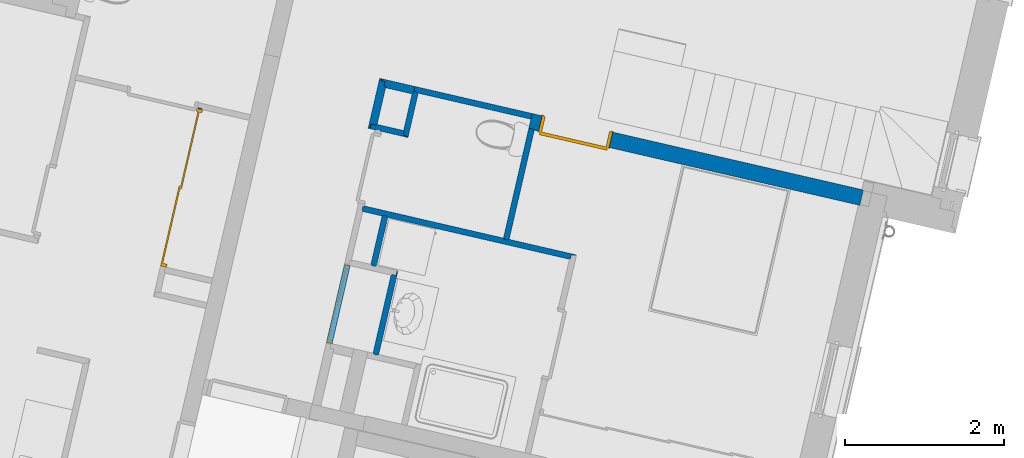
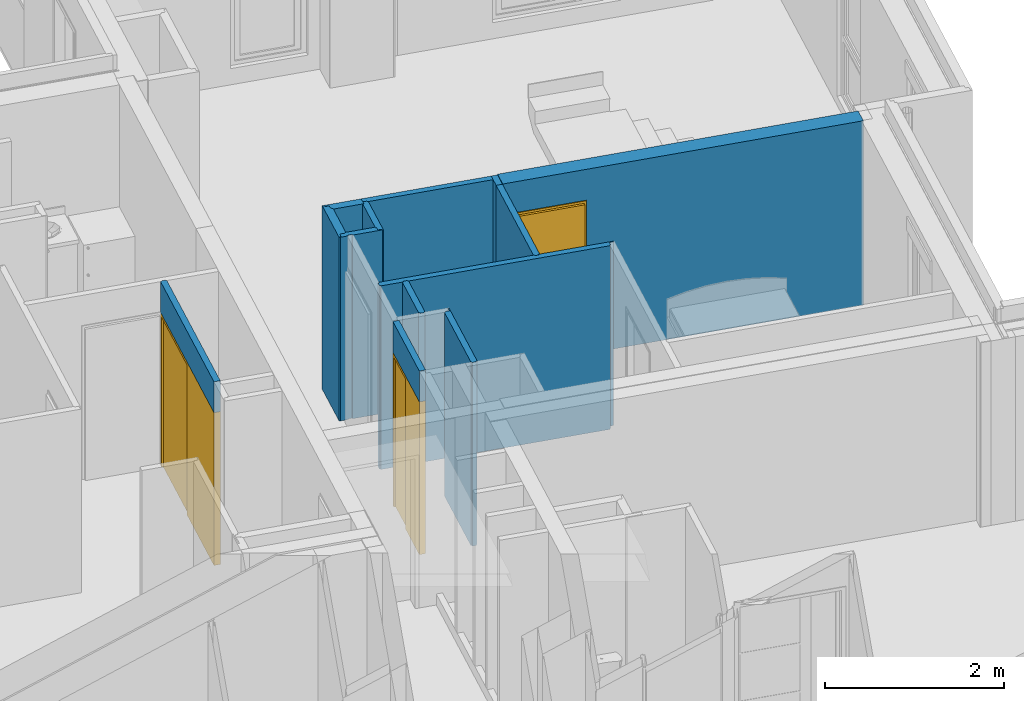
# One storey, part 31 of 62: 12 walls, 3 doors, 3 openings.
"""IFC2X3 building model written with IfcOpenShell, lengths in metres."""

from ifc_helpers import new_model, entity, si_unit, converted_unit, derived_unit, money_unit, direction, frame, origin_with_axes, place, context, subcontext, project, spatial, faceted_brep, material, material_list, type_object, element, fill, save


model = new_model("IFC2X3")

# Units and contexts
model_context = context("Model", 3, precision=1e-05, world=origin_with_axes(), true_north=direction((0.0, 1.0)))
body_context = subcontext(model_context, "Body", "Model", "MODEL_VIEW")
ifc_project = project(units=[si_unit("LENGTHUNIT", "METRE"), si_unit("AREAUNIT", "SQUARE_METRE"), si_unit("VOLUMEUNIT", "CUBIC_METRE"), converted_unit("PLANEANGLEUNIT", "DEGREE", entity("IfcPlaneAngleMeasure", 0.0174532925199), si_unit("PLANEANGLEUNIT", "RADIAN"), dimensions=[0, 0, 0, 0, 0, 0, 0]), si_unit("SOLIDANGLEUNIT", "STERADIAN"), money_unit("EUR"), converted_unit("TIMEUNIT", "Year", entity("IfcTimeMeasure", 31556926.0), si_unit("TIMEUNIT", "SECOND"), dimensions=[0, 0, 1, 0, 0, 0, 0]), si_unit("MASSUNIT", "GRAM", prefix="KILO"), si_unit("THERMODYNAMICTEMPERATUREUNIT", "DEGREE_CELSIUS"), si_unit("LUMINOUSINTENSITYUNIT", "LUMEN"), si_unit("ENERGYUNIT", "JOULE", prefix="MEGA"), derived_unit("THERMALCONDUCTANCEUNIT", [(si_unit("POWERUNIT", "WATT"), 1), (si_unit("LENGTHUNIT", "METRE"), -1), (si_unit("THERMODYNAMICTEMPERATUREUNIT", "KELVIN"), -1)]), derived_unit("SPECIFICHEATCAPACITYUNIT", [(si_unit("ENERGYUNIT", "JOULE"), 1), (si_unit("MASSUNIT", "GRAM", prefix="KILO"), -1), (si_unit("THERMODYNAMICTEMPERATUREUNIT", "KELVIN"), -1)]), derived_unit("MASSDENSITYUNIT", [(si_unit("MASSUNIT", "GRAM", prefix="KILO"), 1), (si_unit("VOLUMEUNIT", "CUBIC_METRE"), -1)])], contexts=[model_context])

# Site, building, storey
site_placement = place(None, origin_with_axes())
site = spatial("IfcSite", under=ifc_project, at=site_placement, Name="Site", CompositionType="ELEMENT")
building_placement = place(site_placement, origin_with_axes())
building = spatial("IfcBuilding", under=site, at=building_placement, Name="Bâtiment", CompositionType="ELEMENT")
storey_placement = place(building_placement, frame((0.0, 0.0, 8.16), z_axis=(0.0, 0.0, 1.0), x_axis=(1.0, 0.0, 0.0)))
storey = spatial("IfcBuildingStorey", under=building, at=storey_placement, Name="R+3", CompositionType="ELEMENT", Elevation=8.16)

# Wall
ifc_material_1 = material(Name="Finition int - Plaque de plâtre")
ifc_material_2 = material(Name="Isolation - Laine de roche")
ifc_material_list_1 = material_list([ifc_material_1, ifc_material_2, ifc_material_1])
wall_type_1 = type_object("IfcWallType", Name="3 - Cloison 72mm Placostil 74", PredefinedType="USERDEFINED")
wall_1_placement = place(storey_placement, frame((-5.01733986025, 6.01975366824, 0.0), z_axis=(0.0, 0.0, 1.0), x_axis=(-0.974387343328, 0.224876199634, 0.0)))
element("IfcWall", 1, at=wall_1_placement, inside=storey, type_object=wall_type_1, material=ifc_material_list_1, Name="Cloison Placostil 72/48", ObjectType="PARTITIONING", context=body_context, shape_type="Brep", body=[
    faceted_brep([(2.43426311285, -0.013, 2.5), (2.43426311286, 0.0, 2.5), (0.074, 0.0, 2.5), (0.0739999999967, -0.013, 2.5), (2.43426311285, -0.013, 0.0), (2.43426311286, 0.0, 0.0), (0.074, 0.0, 0.0), (0.0739999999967, -0.013, 0.0)], [[[0, 1, 2, 3]], [[1, 0, 4, 5]], [[1, 5, 6, 2]], [[7, 3, 2, 6]], [[4, 0, 3, 7]], [[5, 4, 7, 6]]]),
    faceted_brep([(2.74526311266, -0.013, 2.5), (2.74526311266, 0.0, 2.5), (2.48226311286, 0.0, 2.5), (2.48226311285, -0.013, 2.5), (2.74526311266, -0.013, 0.0), (2.74526311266, 0.0, 0.0), (2.48226311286, 0.0, 0.0), (2.48226311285, -0.013, 0.0)], [[[0, 1, 2, 3]], [[1, 0, 4, 5]], [[1, 5, 6, 2]], [[7, 3, 2, 6]], [[4, 0, 3, 7]], [[5, 4, 7, 6]]]),
    faceted_brep([(2.75826311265, -0.061, 2.5), (2.75826311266, -0.013, 2.5), (0.0609999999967, -0.013, 2.5), (0.0609999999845, -0.061, 2.5), (2.75826311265, -0.061, 0.0), (2.75826311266, -0.013, 0.0), (0.0609999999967, -0.013, 0.0), (0.0609999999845, -0.061, 0.0)], [[[0, 1, 2, 3]], [[1, 0, 4, 5]], [[1, 5, 6, 2]], [[7, 3, 2, 6]], [[4, 0, 3, 7]], [[5, 4, 7, 6]]]),
    faceted_brep([(0.882999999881, -0.074, 2.5), (0.882999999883, -0.061, 2.5), (0.0129999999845, -0.061, 2.5), (0.0129999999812, -0.074, 2.5), (0.882999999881, -0.074, 0.0), (0.882999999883, -0.061, 0.0), (0.0129999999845, -0.061, 0.0), (0.0129999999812, -0.074, 0.0)], [[[0, 1, 2, 3]], [[1, 0, 4, 5]], [[1, 5, 6, 2]], [[7, 3, 2, 6]], [[4, 0, 3, 7]], [[5, 4, 7, 6]]]),
    faceted_brep([(2.74526311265, -0.074, 2.5), (2.74526311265, -0.061, 2.5), (0.930999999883, -0.061, 2.5), (0.930999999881, -0.074, 2.5), (2.74526311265, -0.074, 0.0), (2.74526311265, -0.061, 0.0), (0.930999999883, -0.061, 0.0), (0.930999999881, -0.074, 0.0)], [[[0, 1, 2, 3]], [[1, 0, 4, 5]], [[1, 5, 6, 2]], [[7, 3, 2, 6]], [[4, 0, 3, 7]], [[5, 4, 7, 6]]]),
])

# Wall, opening, door
wall_2_placement = place(storey_placement, frame((-9.76130466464, 8.0083783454, 0.0), z_axis=(0.0, 0.0, 1.0), x_axis=(-0.224876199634, -0.974387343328, 0.0)))
wall_2 = element("IfcWall", 2, at=wall_2_placement, inside=storey, type_object=wall_type_1, material=ifc_material_list_1, Name="Cloison Placostil 72/48", ObjectType="PARTITIONING", context=body_context, shape_type="Brep", body=[
    faceted_brep([(2.10988528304, 0.074, 2.08), (0.074, 0.074, 2.08), (0.0740000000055, 0.074, 2.5), (2.10988528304, 0.074, 2.5), (0.074, 0.061, 2.08), (2.10988528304, 0.061, 2.08), (0.0740000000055, 0.061, 2.5), (2.10988528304, 0.061, 2.5)], [[[0, 1, 2, 3]], [[4, 1, 0, 5]], [[1, 4, 6, 2]], [[7, 3, 2, 6]], [[5, 0, 3, 7]], [[4, 5, 7, 6]]]),
    faceted_brep([(0.074, 0.061, 2.08), (0.074, 0.061, 0.0), (0.0610000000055, 0.061, 0.0), (0.0610000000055, 0.061, 2.5), (2.10988528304, 0.061, 2.5), (2.10988528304, 0.061, 2.08), (0.074, 0.013, 2.08), (0.074, 0.013, 0.0), (0.0610000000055, 0.013, 0.0), (0.0610000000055, 0.013, 2.5), (2.10988528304, 0.013, 2.5), (2.10988528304, 0.013, 2.08)], [[[0, 1, 2, 3, 4, 5]], [[1, 0, 6, 7]], [[1, 7, 8, 2]], [[2, 8, 9, 3]], [[10, 4, 3, 9]], [[11, 5, 4, 10]], [[0, 5, 11, 6]], [[6, 11, 10, 9, 8, 7]]]),
    faceted_brep([(2.10988528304, 0.013, 2.08), (0.074, 0.013, 2.08), (0.0740000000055, 0.013, 2.5), (2.10988528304, 0.013, 2.5), (0.074, 0.0, 2.08), (2.10988528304, 0.0, 2.08), (0.0740000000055, 0.0, 2.5), (2.10988528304, 0.0, 2.5)], [[[0, 1, 2, 3]], [[4, 1, 0, 5]], [[1, 4, 6, 2]], [[7, 3, 2, 6]], [[5, 0, 3, 7]], [[4, 5, 7, 6]]]),
])
opening_1_placement = place(wall_2_placement, frame((1.09194264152, 0.0, 0.0), z_axis=(0.0, 0.0, 1.0), x_axis=(1.0, 0.0, 0.0)))
opening_1 = element("IfcOpeningElement", 3, at=opening_1_placement, cuts=wall_2, Name="Por-002", context=body_context, shape_type="Brep", body=[
    faceted_brep([(1.01794264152, -0.074, 0.0), (-1.01794264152, -0.074, 0.0), (-1.01794264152, 0.074, 0.0), (1.01794264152, 0.074, 0.0), (1.01794264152, -0.074, 2.08), (-1.01794264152, -0.074, 2.08), (-1.01794264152, 0.074, 2.08), (1.01794264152, 0.074, 2.08)], [[[0, 1, 2, 3]], [[0, 4, 5, 1]], [[1, 5, 6, 2]], [[3, 2, 6, 7]], [[4, 0, 3, 7]], [[5, 4, 7, 6]]]),
])
door_style_1 = type_object("IfcDoorStyle", Name="Porte int générique 2019", ConstructionType="NOTDEFINED", OperationType="USERDEFINED", ParameterTakesPrecedence=False, Sizeable=False)
door_1_placement = place(opening_1_placement, frame((0.977942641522, 0.0, 0.0), z_axis=(0.0, 0.0, 1.0), x_axis=(-1.0, 0.0, 0.0)))
door_1 = element("IfcDoor", 4, at=door_1_placement, inside=storey, type_object=door_style_1, Name="Por-002", ObjectType="DOOR", OverallHeight=2.04, OverallWidth=1.95589, context=body_context, shape_type="Brep", body=[
    faceted_brep([(-0.04, 0.0, 0.0), (-0.04, 0.0, 2.08), (1.99588528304, 0.0, 2.08), (1.99588528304, 0.0, 0.0), (1.95588528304, 0.0, 0.0), (1.95588528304, 0.0, 2.04), (0.0, 0.0, 2.04), (0.0, 0.0, 0.0), (-0.04, -0.074, 0.0), (-0.04, -0.074, 2.08), (1.99588528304, -0.074, 2.08), (1.99588528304, -0.074, 0.0), (1.95588528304, -0.074, 0.0), (1.95588528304, -0.074, 2.04), (0.0, -0.074, 2.04), (0.0, -0.074, 0.0)], [[[0, 1, 2, 3, 4, 5, 6, 7]], [[8, 9, 1, 0]], [[9, 10, 2, 1]], [[10, 11, 3, 2]], [[3, 11, 12, 4]], [[5, 4, 12, 13]], [[6, 5, 13, 14]], [[7, 6, 14, 15]], [[0, 7, 15, 8]], [[15, 14, 13, 12, 11, 10, 9, 8]]]),
    faceted_brep([(0.0, 0.0, 0.0), (0.992942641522, 0.0, 0.0), (0.992942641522, -0.02, 0.0), (0.0, -0.02, 0.0), (0.0, 0.0, 2.04), (0.992942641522, 0.0, 2.04), (0.992942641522, -0.02, 2.04), (0.0, -0.02, 2.04)], [[[0, 1, 2, 3]], [[0, 4, 5, 1]], [[1, 5, 6, 2]], [[3, 2, 6, 7]], [[4, 0, 3, 7]], [[5, 4, 7, 6]]]),
    faceted_brep([(0.962942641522, -0.02, 0.0), (1.95588528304, -0.02, 0.0), (1.95588528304, -0.04, 0.0), (0.962942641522, -0.04, 0.0), (0.962942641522, -0.02, 2.04), (1.95588528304, -0.02, 2.04), (1.95588528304, -0.04, 2.04), (0.962942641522, -0.04, 2.04)], [[[0, 1, 2, 3]], [[0, 4, 5, 1]], [[1, 5, 6, 2]], [[3, 2, 6, 7]], [[4, 0, 3, 7]], [[5, 4, 7, 6]]]),
])
fill(opening_1, door_1)

# Walls
wall_3_placement = place(storey_placement, frame((-5.52941257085, 7.66974078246, 0.0), z_axis=(0.0, 0.0, 1.0), x_axis=(-0.224876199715, -0.97438734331, 0.0)))
element("IfcWall", 5, at=wall_3_placement, inside=storey, type_object=wall_type_1, material=ifc_material_list_1, Name="Cloison Placostil 72/48", ObjectType="PARTITIONING", context=body_context, shape_type="Brep", body=[
    faceted_brep([(1.41857359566, -0.013, 2.5), (1.41857359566, 0.0, 2.5), (-3.59074547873e-10, 0.0, 2.5), (-3.68804542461e-10, -0.013, 2.5), (1.41857359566, -0.013, 0.0), (1.41857359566, 0.0, 0.0), (-3.59074547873e-10, 0.0, 0.0), (-3.68804542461e-10, -0.013, 0.0)], [[[0, 1, 2, 3]], [[1, 0, 4, 5]], [[1, 5, 6, 2]], [[7, 3, 2, 6]], [[4, 0, 3, 7]], [[5, 4, 7, 6]]]),
    faceted_brep([(1.43157359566, -0.061, 2.5), (1.43157359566, -0.013, 2.5), (-3.68804542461e-10, -0.013, 2.5), (-4.04734912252e-10, -0.061, 2.5), (1.43157359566, -0.061, 0.0), (1.43157359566, -0.013, 0.0), (-3.68804542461e-10, -0.013, 0.0), (-4.04734912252e-10, -0.061, 0.0)], [[[0, 1, 2, 3]], [[1, 0, 4, 5]], [[1, 5, 6, 2]], [[7, 3, 2, 6]], [[4, 0, 3, 7]], [[5, 4, 7, 6]]]),
    faceted_brep([(1.41857359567, -0.074, 2.5), (1.41857359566, -0.061, 2.5), (-4.04734912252e-10, -0.061, 2.5), (-4.14464018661e-10, -0.074, 2.5), (1.41857359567, -0.074, 0.0), (1.41857359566, -0.061, 0.0), (-4.04734912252e-10, -0.061, 0.0), (-4.14464018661e-10, -0.074, 0.0)], [[[0, 1, 2, 3]], [[1, 0, 4, 5]], [[1, 5, 6, 2]], [[7, 3, 2, 6]], [[4, 0, 3, 7]], [[5, 4, 7, 6]]]),
])
wall_4_placement = place(storey_placement, frame((-7.37658799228, 6.56423811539, 0.0), z_axis=(0.0, 0.0, 1.0), x_axis=(-0.224876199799, -0.97438734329, 0.0)))
element("IfcWall", 6, at=wall_4_placement, inside=storey, type_object=wall_type_1, material=ifc_material_list_1, Name="Cloison Placostil 72/48", ObjectType="PARTITIONING", context=body_context, shape_type="Brep", body=[
    faceted_brep([(0.625213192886, -0.013, 2.5), (0.625213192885, 0.0, 2.5), (0.0, 0.0, 2.5), (0.0, -0.013, 2.5), (0.625213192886, -0.013, 0.0), (0.625213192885, 0.0, 0.0), (0.0, 0.0, 0.0), (0.0, -0.013, 0.0)], [[[0, 1, 2, 3]], [[1, 0, 4, 5]], [[1, 5, 6, 2]], [[7, 3, 2, 6]], [[4, 0, 3, 7]], [[5, 4, 7, 6]]]),
    faceted_brep([(0.63821319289, -0.061, 2.5), (0.638213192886, -0.013, 2.5), (-0.0129999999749, -0.013, 2.5), (-0.0129999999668, -0.061, 2.5), (0.63821319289, -0.061, 0.0), (0.638213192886, -0.013, 0.0), (-0.0129999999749, -0.013, 0.0), (-0.0129999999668, -0.061, 0.0)], [[[0, 1, 2, 3]], [[1, 0, 4, 5]], [[1, 5, 6, 2]], [[7, 3, 2, 6]], [[4, 0, 3, 7]], [[5, 4, 7, 6]]]),
    faceted_brep([(0.625213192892, -0.074, 2.5), (0.62521319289, -0.061, 2.5), (0.0, -0.061, 2.5), (0.0, -0.074, 2.5), (0.625213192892, -0.074, 0.0), (0.62521319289, -0.061, 0.0), (0.0, -0.061, 0.0), (0.0, -0.074, 0.0)], [[[0, 1, 2, 3]], [[1, 0, 4, 5]], [[1, 5, 6, 2]], [[7, 3, 2, 6]], [[4, 0, 3, 7]], [[5, 4, 7, 6]]]),
])
wall_5_placement = place(storey_placement, frame((-5.55879075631, 7.87151521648, 0.0), z_axis=(0.0, 0.0, 1.0), x_axis=(-0.97438734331, 0.224876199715, 0.0)))
element("IfcWall", 7, at=wall_5_placement, inside=storey, type_object=wall_type_1, material=ifc_material_list_1, Name="Cloison Placostil 72/48", ObjectType="PARTITIONING", context=body_context, shape_type="Brep", body=[
    faceted_brep([(1.46765362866, 0.074, 0.0), (1.46765362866, 0.061, 0.0), (0.0, 0.061, 0.0), (0.0, 0.074, 0.0), (1.46765362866, 0.074, 2.5), (1.46765362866, 0.061, 2.5), (0.0, 0.061, 2.5), (0.0, 0.074, 2.5)], [[[0, 1, 2, 3]], [[1, 0, 4, 5]], [[1, 5, 6, 2]], [[7, 3, 2, 6]], [[4, 0, 3, 7]], [[5, 4, 7, 6]]]),
    faceted_brep([(0.0, 0.061, 0.0), (1.51565362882, 0.061, 0.0), (1.51565362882, 0.013, 0.0), (0.0, 0.013, 0.0), (0.0, 0.061, 2.5), (1.51565362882, 0.061, 2.5), (1.51565362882, 0.013, 2.5), (0.0, 0.013, 2.5)], [[[0, 1, 2, 3]], [[4, 5, 1, 0]], [[2, 1, 5, 6]], [[3, 2, 6, 7]], [[4, 0, 3, 7]], [[7, 6, 5, 4]]]),
    faceted_brep([(0.0, 0.013, 0.0), (1.51565362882, 0.013, 0.0), (1.51565362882, 0.0, 0.0), (0.0, 0.0, 0.0), (0.0, 0.013, 2.5), (1.51565362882, 0.013, 2.5), (1.51565362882, 0.0, 2.5), (0.0, 0.0, 2.5)], [[[0, 1, 2, 3]], [[4, 5, 1, 0]], [[2, 1, 5, 6]], [[3, 2, 6, 7]], [[4, 0, 3, 7]], [[7, 6, 5, 4]]]),
])
wall_6_placement = place(storey_placement, frame((-7.24702189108, 5.89268841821, 0.0), z_axis=(0.0, 0.0, 1.0), x_axis=(-0.224876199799, -0.97438734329, 0.0)))
element("IfcWall", 8, at=wall_6_placement, inside=storey, type_object=wall_type_1, material=ifc_material_list_1, Name="Cloison Placostil 72/48", ObjectType="PARTITIONING", context=body_context, shape_type="Brep", body=[
    faceted_brep([(1.08273752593, -0.013, 2.5), (1.08273752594, 0.0, 2.5), (0.013, 0.0, 2.5), (0.0130000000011, -0.013, 2.5), (1.08273752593, -0.013, 0.0), (1.08273752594, 0.0, 0.0), (0.013, 0.0, 0.0), (0.0130000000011, -0.013, 0.0)], [[[0, 1, 2, 3]], [[1, 0, 4, 5]], [[1, 5, 6, 2]], [[7, 3, 2, 6]], [[4, 0, 3, 7]], [[5, 4, 7, 6]]]),
    faceted_brep([(1.0957375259, -0.061, 2.5), (1.09573752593, -0.013, 2.5), (0.0610000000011, -0.013, 2.5), (0.0610000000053, -0.061, 2.5), (1.0957375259, -0.061, 0.0), (1.09573752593, -0.013, 0.0), (0.0610000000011, -0.013, 0.0), (0.0610000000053, -0.061, 0.0)], [[[0, 1, 2, 3]], [[1, 0, 4, 5]], [[1, 5, 6, 2]], [[7, 3, 2, 6]], [[4, 0, 3, 7]], [[5, 4, 7, 6]]]),
    faceted_brep([(1.08273752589, -0.074, 2.5), (1.0827375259, -0.061, 2.5), (0.0740000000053, -0.061, 2.5), (0.0740000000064, -0.074, 2.5), (1.08273752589, -0.074, 0.0), (1.0827375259, -0.061, 0.0), (0.0740000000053, -0.061, 0.0), (0.0740000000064, -0.074, 0.0)], [[[0, 1, 2, 3]], [[1, 0, 4, 5]], [[1, 5, 6, 2]], [[7, 3, 2, 6]], [[4, 0, 3, 7]], [[5, 4, 7, 6]]]),
])

# Wall, opening, door
wall_7_placement = place(storey_placement, frame((-7.84952589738, 5.95579351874, 0.0), z_axis=(0.0, 0.0, 1.0), x_axis=(-0.224876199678, -0.974387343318, 0.0)))
wall_7 = element("IfcWall", 9, at=wall_7_placement, inside=storey, type_object=wall_type_1, material=ifc_material_list_1, Name="Cloison Placostil 72/48", ObjectType="PARTITIONING", context=body_context, shape_type="Brep", body=[
    faceted_brep([(1.00873752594, 0.0, 2.08), (0.0, 0.0, 2.08), (0.0, 0.0, 2.5), (1.00873752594, 0.0, 2.5), (0.0, -0.013, 2.08), (1.00873752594, -0.013, 2.08), (0.0, -0.013, 2.5), (1.00873752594, -0.013, 2.5)], [[[0, 1, 2, 3]], [[4, 1, 0, 5]], [[1, 4, 6, 2]], [[7, 3, 2, 6]], [[5, 0, 3, 7]], [[4, 5, 7, 6]]]),
    faceted_brep([(1.00873752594, -0.013, 2.08), (0.0, -0.013, 2.08), (0.0, -0.013, 2.5), (1.00873752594, -0.013, 2.5), (0.0, -0.061, 2.08), (1.00873752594, -0.061, 2.08), (0.0, -0.061, 2.5), (1.00873752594, -0.061, 2.5)], [[[0, 1, 2, 3]], [[4, 1, 0, 5]], [[1, 4, 6, 2]], [[7, 3, 2, 6]], [[5, 0, 3, 7]], [[4, 5, 7, 6]]]),
    faceted_brep([(1.00873752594, -0.061, 2.08), (0.0, -0.061, 2.08), (0.0, -0.061, 2.5), (1.00873752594, -0.061, 2.5), (0.0, -0.074, 2.08), (1.00873752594, -0.074, 2.08), (0.0, -0.074, 2.5), (1.00873752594, -0.074, 2.5)], [[[0, 1, 2, 3]], [[4, 1, 0, 5]], [[1, 4, 6, 2]], [[7, 3, 2, 6]], [[5, 0, 3, 7]], [[4, 5, 7, 6]]]),
])
opening_2_placement = place(wall_7_placement, frame((0.504368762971, 0.0, 0.0), z_axis=(0.0, 0.0, 1.0), x_axis=(1.0, 0.0, 0.0)))
opening_2 = element("IfcOpeningElement", 10, at=opening_2_placement, cuts=wall_7, Name="Por-002", context=body_context, shape_type="Brep", body=[
    faceted_brep([(0.504368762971, -0.074, 0.0), (-0.504368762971, -0.074, 0.0), (-0.504368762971, 0.074, 0.0), (0.504368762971, 0.074, 0.0), (0.504368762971, -0.074, 2.08), (-0.504368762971, -0.074, 2.08), (-0.504368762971, 0.074, 2.08), (0.504368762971, 0.074, 2.08)], [[[0, 1, 2, 3]], [[0, 4, 5, 1]], [[1, 5, 6, 2]], [[3, 2, 6, 7]], [[4, 0, 3, 7]], [[5, 4, 7, 6]]]),
])
door_2_placement = place(opening_2_placement, frame((0.464368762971, 0.0, 0.0), z_axis=(0.0, 0.0, 1.0), x_axis=(-1.0, 0.0, 0.0)))
door_2 = element("IfcDoor", 11, at=door_2_placement, inside=storey, type_object=door_style_1, Name="Por-002", ObjectType="DOOR", OverallHeight=2.04, OverallWidth=0.928738, context=body_context, shape_type="Brep", body=[
    faceted_brep([(-0.04, 0.074, 0.0), (-0.04, 0.074, 2.08), (0.968737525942, 0.074, 2.08), (0.968737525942, 0.074, 0.0), (0.928737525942, 0.074, 0.0), (0.928737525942, 0.074, 2.04), (0.0, 0.074, 2.04), (0.0, 0.074, 0.0), (-0.04, 0.0, 0.0), (-0.04, 0.0, 2.08), (0.968737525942, 0.0, 2.08), (0.968737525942, 0.0, 0.0), (0.928737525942, 0.0, 0.0), (0.928737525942, 0.0, 2.04), (0.0, 0.0, 2.04), (0.0, 0.0, 0.0)], [[[0, 1, 2, 3, 4, 5, 6, 7]], [[8, 9, 1, 0]], [[9, 10, 2, 1]], [[10, 11, 3, 2]], [[3, 11, 12, 4]], [[5, 4, 12, 13]], [[6, 5, 13, 14]], [[7, 6, 14, 15]], [[0, 7, 15, 8]], [[15, 14, 13, 12, 11, 10, 9, 8]]]),
    faceted_brep([(0.0, 0.074, 0.0), (0.479368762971, 0.074, 0.0), (0.479368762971, 0.054, 0.0), (0.0, 0.054, 0.0), (0.0, 0.074, 2.04), (0.479368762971, 0.074, 2.04), (0.479368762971, 0.054, 2.04), (0.0, 0.054, 2.04)], [[[0, 1, 2, 3]], [[0, 4, 5, 1]], [[1, 5, 6, 2]], [[3, 2, 6, 7]], [[4, 0, 3, 7]], [[5, 4, 7, 6]]]),
    faceted_brep([(0.449368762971, 0.054, 0.0), (0.928737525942, 0.054, 0.0), (0.928737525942, 0.034, 0.0), (0.449368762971, 0.034, 0.0), (0.449368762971, 0.054, 2.04), (0.928737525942, 0.054, 2.04), (0.928737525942, 0.034, 2.04), (0.449368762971, 0.034, 2.04)], [[[0, 1, 2, 3]], [[0, 4, 5, 1]], [[1, 5, 6, 2]], [[3, 2, 6, 7]], [[4, 0, 3, 7]], [[5, 4, 7, 6]]]),
])
fill(opening_2, door_2)

ifc_material_3 = material(Name="Finition int - Enduit plâtre")
ifc_material_4 = material(Name="Béton")
ifc_material_list_2 = material_list([ifc_material_3, ifc_material_4, ifc_material_3])
wall_type_2 = type_object("IfcWallType", Name="2 - Murs Béton 18 + Enduit 2 Faces 200", PredefinedType="USERDEFINED")
wall_8_placement = place(storey_placement, frame((-5.52941257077, 7.66974078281, 0.0), z_axis=(0.0, 0.0, 1.0), x_axis=(0.974387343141, -0.224876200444, 0.0)))
wall_8 = element("IfcWall", 12, at=wall_8_placement, inside=storey, type_object=wall_type_2, material=ifc_material_list_2, Name="M_Ext-008", ObjectType="SOLIDWALL", context=body_context, shape_type="Brep", body=[
    faceted_brep([(0.0553181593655, 0.19, 2.08), (0.0553181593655, 0.19, 0.0), (-0.0740000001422, 0.19, 0.0), (-0.0740000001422, 0.19, 2.5), (0.0, 0.19, 2.5), (0.0, 0.19, 2.51), (4.2049282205, 0.19, 2.51), (4.2049282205, 0.19, 0.0), (0.965318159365, 0.19, 0.0), (0.965318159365, 0.19, 2.08), (0.0553181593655, 0.18, 2.08), (0.0553181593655, 0.18, 0.0), (-0.0740000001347, 0.18, 0.0), (-0.0740000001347, 0.18, 2.5), (0.0, 0.18, 2.5), (0.0, 0.18, 2.51), (4.2049282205, 0.18, 2.51), (4.2049282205, 0.18, 0.0), (0.965318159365, 0.18, 0.0), (0.965318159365, 0.18, 2.08)], [[[0, 1, 2, 3, 4, 5, 6, 7, 8, 9]], [[1, 0, 10, 11]], [[1, 11, 12, 2]], [[13, 3, 2, 12]], [[3, 13, 14, 4]], [[15, 5, 4, 14]], [[5, 15, 16, 6]], [[17, 7, 6, 16]], [[18, 8, 7, 17]], [[9, 8, 18, 19]], [[0, 9, 19, 10]], [[19, 18, 17, 16, 15, 14, 13, 12, 11, 10]]]),
    faceted_brep([(0.0553181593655, 0.18, 2.08), (0.0553181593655, 0.18, 0.0), (-0.0740000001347, 0.18, 0.0), (-0.0740000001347, 0.18, 2.5), (0.0, 0.18, 2.5), (0.0, 0.18, 2.51), (4.2049282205, 0.18, 2.51), (4.2049282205, 0.18, 0.0), (0.965318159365, 0.18, 0.0), (0.965318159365, 0.18, 2.08), (0.0553181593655, 0.0, 2.08), (0.0553181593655, 0.0, 0.0), (-0.074, 0.0, 0.0), (-0.074, 0.0, 2.5), (0.0, 0.0, 2.5), (0.0, 0.0, 2.51), (4.2049282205, 0.0, 2.51), (4.2049282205, 0.0, 0.0), (0.965318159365, 0.0, 0.0), (0.965318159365, 0.0, 2.08)], [[[0, 1, 2, 3, 4, 5, 6, 7, 8, 9]], [[1, 0, 10, 11]], [[1, 11, 12, 2]], [[13, 3, 2, 12]], [[3, 13, 14, 4]], [[15, 5, 4, 14]], [[5, 15, 16, 6]], [[17, 7, 6, 16]], [[18, 8, 7, 17]], [[9, 8, 18, 19]], [[0, 9, 19, 10]], [[19, 18, 17, 16, 15, 14, 13, 12, 11, 10]]]),
    faceted_brep([(0.0553181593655, 0.0, 2.08), (0.0553181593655, 0.0, 0.0), (0.0, 0.0, 0.0), (0.0, 0.0, 2.5), (0.0, 0.0, 2.51), (4.2049282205, 0.0, 2.51), (4.2049282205, 0.0, 0.0), (0.965318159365, 0.0, 0.0), (0.965318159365, 0.0, 2.08), (0.0553181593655, -0.01, 2.08), (0.0553181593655, -0.01, 0.0), (0.0, -0.01, 0.0), (0.0, -0.01, 2.5), (0.0, -0.01, 2.51), (4.2049282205, -0.01, 2.51), (4.2049282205, -0.01, 0.0), (0.965318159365, -0.01, 0.0), (0.965318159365, -0.01, 2.08)], [[[0, 1, 2, 3, 4, 5, 6, 7, 8]], [[1, 0, 9, 10]], [[1, 10, 11, 2]], [[12, 3, 2, 11]], [[3, 12, 13, 4]], [[5, 4, 13, 14]], [[14, 15, 6, 5]], [[16, 7, 6, 15]], [[8, 7, 16, 17]], [[0, 8, 17, 9]], [[17, 16, 15, 14, 13, 12, 11, 10, 9]]]),
])
opening_3_placement = place(wall_8_placement, frame((0.510318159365, 0.0, 0.0), z_axis=(0.0, 0.0, 1.0), x_axis=(1.0, 0.0, 0.0)))
opening_3 = element("IfcOpeningElement", 13, at=opening_3_placement, cuts=wall_8, Name="Porte 83x204 bois alvéolaire", context=body_context, shape_type="Brep", body=[
    faceted_brep([(-0.455, 0.2, 0.0), (0.455, 0.2, 0.0), (0.455, -0.2, 0.0), (-0.455, -0.2, 0.0), (-0.455, 0.2, 2.08), (0.455, 0.2, 2.08), (0.455, -0.2, 2.08), (-0.455, -0.2, 2.08)], [[[0, 1, 2, 3]], [[0, 4, 5, 1]], [[1, 5, 6, 2]], [[3, 2, 6, 7]], [[4, 0, 3, 7]], [[5, 4, 7, 6]]]),
])
door_style_2 = type_object("IfcDoorStyle", Name="Porte int générique 2019", ConstructionType="NOTDEFINED", OperationType="SINGLE_SWING_RIGHT", ParameterTakesPrecedence=False, Sizeable=False)
door_3_placement = place(opening_3_placement, frame((0.415, 0.0, 0.0), z_axis=(0.0, 0.0, 1.0), x_axis=(-1.0, 0.0, 0.0)))
door_3 = element("IfcDoor", 14, at=door_3_placement, inside=storey, type_object=door_style_2, Name="Porte 83x204 bois alvéolaire", ObjectType="DOOR", OverallHeight=2.04, OverallWidth=0.83, context=body_context, shape_type="Brep", body=[
    faceted_brep([(0.87, 0.01, 0.0), (0.83, 0.01, 0.0), (0.83, 0.01, 2.04), (0.0, 0.01, 2.04), (0.0, 0.01, 0.0), (-0.04, 0.01, 0.0), (-0.04, 0.01, 2.08), (0.87, 0.01, 2.08), (0.87, -0.19, 0.0), (0.83, -0.19, 0.0), (0.83, -0.19, 2.04), (0.0, -0.19, 2.04), (0.0, -0.19, 0.0), (-0.04, -0.19, 0.0), (-0.04, -0.19, 2.08), (0.87, -0.19, 2.08)], [[[0, 1, 2, 3, 4, 5, 6, 7]], [[0, 8, 9, 1]], [[1, 9, 10, 2]], [[2, 10, 11, 3]], [[3, 11, 12, 4]], [[5, 4, 12, 13]], [[14, 6, 5, 13]], [[15, 7, 6, 14]], [[8, 0, 7, 15]], [[9, 8, 15, 14, 13, 12, 11, 10]]]),
    faceted_brep([(0.88, 0.01, 0.0), (0.88, 0.02, 0.0), (0.88, 0.02, 2.09), (0.88, 0.01, 2.09), (0.85, 0.01, 0.0), (0.85, 0.02, 0.0), (0.85, 0.02, 2.06), (-0.02, 0.02, 2.06), (-0.02, 0.02, 0.0), (-0.05, 0.02, 0.0), (-0.05, 0.02, 2.09), (-0.05, 0.01, 2.09), (-0.05, 0.01, 0.0), (-0.02, 0.01, 0.0), (-0.02, 0.01, 2.06), (0.85, 0.01, 2.06)], [[[0, 1, 2, 3]], [[0, 4, 5, 1]], [[1, 5, 6, 7, 8, 9, 10, 2]], [[3, 2, 10, 11]], [[4, 0, 3, 11, 12, 13, 14, 15]], [[5, 4, 15, 6]], [[6, 15, 14, 7]], [[7, 14, 13, 8]], [[12, 9, 8, 13]], [[11, 10, 9, 12]]]),
    faceted_brep([(0.88, -0.2, 0.0), (0.88, -0.19, 0.0), (0.88, -0.19, 2.09), (0.88, -0.2, 2.09), (0.85, -0.2, 0.0), (0.85, -0.19, 0.0), (0.85, -0.19, 2.06), (-0.02, -0.19, 2.06), (-0.02, -0.19, 0.0), (-0.05, -0.19, 0.0), (-0.05, -0.19, 2.09), (-0.05, -0.2, 2.09), (-0.05, -0.2, 0.0), (-0.02, -0.2, 0.0), (-0.02, -0.2, 2.06), (0.85, -0.2, 2.06)], [[[0, 1, 2, 3]], [[0, 4, 5, 1]], [[1, 5, 6, 7, 8, 9, 10, 2]], [[3, 2, 10, 11]], [[4, 0, 3, 11, 12, 13, 14, 15]], [[5, 4, 15, 6]], [[6, 15, 14, 7]], [[7, 14, 13, 8]], [[12, 9, 8, 13]], [[11, 10, 9, 12]]]),
    faceted_brep([(0.85, 0.05, 0.0), (0.85, 0.01, 0.0), (-0.02, 0.01, 0.0), (-0.02, 0.05, 0.0), (0.85, 0.05, 2.06), (0.85, 0.01, 2.06), (-0.02, 0.01, 2.06), (-0.02, 0.05, 2.06)], [[[0, 1, 2, 3]], [[4, 5, 1, 0]], [[1, 5, 6, 2]], [[3, 2, 6, 7]], [[0, 3, 7, 4]], [[7, 6, 5, 4]]]),
])
fill(opening_3, door_3)

# Walls
wall_type_3 = type_object("IfcWallType", Name="3 - Cloison Gaine Technique 72mm 74", PredefinedType="USERDEFINED")
wall_9_placement = place(storey_placement, frame((-7.12158585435, 7.56861906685, 0.0), z_axis=(0.0, 0.0, 1.0), x_axis=(-0.97438734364, 0.224876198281, 0.0)))
element("IfcWall", 15, at=wall_9_placement, inside=storey, type_object=wall_type_3, material=ifc_material_list_1, Name="Cloison Placostil 72/48", ObjectType="PARTITIONING", context=body_context, shape_type="Brep", body=[
    faceted_brep([(0.359609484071, -0.013, 2.5), (0.35960948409, 0.0, 2.5), (0.013, 0.0, 2.5), (0.0129999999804, -0.013, 2.5), (0.359609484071, -0.013, 0.0), (0.35960948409, 0.0, 0.0), (0.013, 0.0, 0.0), (0.0129999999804, -0.013, 0.0)], [[[0, 1, 2, 3]], [[1, 0, 4, 5]], [[1, 5, 6, 2]], [[7, 3, 2, 6]], [[4, 0, 3, 7]], [[5, 4, 7, 6]]]),
    faceted_brep([(0.502609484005, -0.013, 2.5), (0.502609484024, 0.0, 2.5), (0.40760948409, 0.0, 2.5), (0.407609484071, -0.013, 2.5), (0.502609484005, -0.013, 0.0), (0.502609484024, 0.0, 0.0), (0.40760948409, 0.0, 0.0), (0.407609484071, -0.013, 0.0)], [[[0, 1, 2, 3]], [[1, 0, 4, 5]], [[1, 5, 6, 2]], [[7, 3, 2, 6]], [[4, 0, 3, 7]], [[5, 4, 7, 6]]]),
    faceted_brep([(0.489609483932, -0.061, 2.5), (0.489609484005, -0.013, 2.5), (0.0609999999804, -0.013, 2.5), (0.0609999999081, -0.061, 2.5), (0.489609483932, -0.061, 0.0), (0.489609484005, -0.013, 0.0), (0.0609999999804, -0.013, 0.0), (0.0609999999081, -0.061, 0.0)], [[[0, 1, 2, 3]], [[1, 0, 4, 5]], [[1, 5, 6, 2]], [[7, 3, 2, 6]], [[4, 0, 3, 7]], [[5, 4, 7, 6]]]),
    faceted_brep([(0.428609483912, -0.074, 2.5), (0.428609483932, -0.061, 2.5), (0.0739999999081, -0.061, 2.5), (0.0739999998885, -0.074, 2.5), (0.428609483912, -0.074, 0.0), (0.428609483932, -0.061, 0.0), (0.0739999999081, -0.061, 0.0), (0.0739999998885, -0.074, 0.0)], [[[0, 1, 2, 3]], [[1, 0, 4, 5]], [[1, 5, 6, 2]], [[7, 3, 2, 6]], [[4, 0, 3, 7]], [[5, 4, 7, 6]]]),
])
wall_10_placement = place(storey_placement, frame((-6.97618684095, 8.19863219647, 0.0), z_axis=(0.0, 0.0, 1.0), x_axis=(-0.224876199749, -0.974387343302, 0.0)))
element("IfcWall", 16, at=wall_10_placement, inside=storey, type_object=wall_type_3, material=ifc_material_list_1, Name="Cloison Placostil 72/48", ObjectType="PARTITIONING", context=body_context, shape_type="Brep", body=[
    faceted_brep([(0.646573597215, -0.013, 2.5), (0.646573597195, 0.0, 2.5), (0.0740000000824, 0.0, 2.5), (0.0740000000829, -0.013, 2.5), (0.646573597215, -0.013, 0.0), (0.646573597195, 0.0, 0.0), (0.0740000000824, 0.0, 0.0), (0.0740000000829, -0.013, 0.0)], [[[0, 1, 2, 3]], [[1, 0, 4, 5]], [[1, 5, 6, 2]], [[7, 3, 2, 6]], [[4, 0, 3, 7]], [[5, 4, 7, 6]]]),
    faceted_brep([(0.633573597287, -0.061, 2.5), (0.633573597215, -0.013, 2.5), (0.0610000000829, -0.013, 2.5), (0.0610000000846, -0.061, 2.5), (0.633573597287, -0.061, 0.0), (0.633573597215, -0.013, 0.0), (0.0610000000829, -0.013, 0.0), (0.0610000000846, -0.061, 0.0)], [[[0, 1, 2, 3]], [[1, 0, 4, 5]], [[1, 5, 6, 2]], [[7, 3, 2, 6]], [[4, 0, 3, 7]], [[5, 4, 7, 6]]]),
    faceted_brep([(0.585573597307, -0.074, 2.5), (0.585573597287, -0.061, 2.5), (0.0740000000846, -0.061, 2.5), (0.074000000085, -0.074, 2.5), (0.585573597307, -0.074, 0.0), (0.585573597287, -0.061, 0.0), (0.0740000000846, -0.061, 0.0), (0.074000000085, -0.074, 0.0)], [[[0, 1, 2, 3]], [[1, 0, 4, 5]], [[1, 5, 6, 2]], [[7, 3, 2, 6]], [[4, 0, 3, 7]], [[5, 4, 7, 6]]]),
])
ifc_material_list_3 = material_list([ifc_material_1, ifc_material_1, ifc_material_2, ifc_material_1, ifc_material_1])
wall_type_4 = type_object("IfcWallType", Name="3 - Cloison Gaine Technique 98mm 100", PredefinedType="USERDEFINED")
wall_11_placement = place(storey_placement, frame((-7.47859019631, 8.3145804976, 0.0), z_axis=(0.0, 0.0, 1.0), x_axis=(0.974387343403, -0.224876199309, 0.0)))
element("IfcWall", 17, at=wall_11_placement, inside=storey, type_object=wall_type_4, material=ifc_material_list_3, Name="Cloison 98 isolée", ObjectType="PARTITIONING", context=body_context, shape_type="Brep", body=[
    faceted_brep([(0.0129999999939, -0.013, 2.5), (0.454609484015, -0.013, 2.5), (0.454609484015, 0.0, 2.5), (0.013, 0.0, 2.5), (0.0129999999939, -0.013, 0.0), (0.454609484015, -0.013, 0.0), (0.454609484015, 0.0, 0.0), (0.013, 0.0, 0.0)], [[[0, 1, 2, 3]], [[4, 5, 1, 0]], [[2, 1, 5, 6]], [[3, 2, 6, 7]], [[4, 0, 3, 7]], [[7, 6, 5, 4]]]),
    faceted_brep([(0.0259999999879, -0.026, 2.5), (0.454609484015, -0.026, 2.5), (0.454609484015, -0.013, 2.5), (0.0259999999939, -0.013, 2.5), (0.0259999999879, -0.026, 0.0), (0.454609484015, -0.026, 0.0), (0.454609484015, -0.013, 0.0), (0.0259999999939, -0.013, 0.0)], [[[0, 1, 2, 3]], [[4, 5, 1, 0]], [[2, 1, 5, 6]], [[3, 2, 6, 7]], [[4, 0, 3, 7]], [[7, 6, 5, 4]]]),
    faceted_brep([(0.0739999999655, -0.074, 2.5), (0.454609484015, -0.074, 2.5), (0.454609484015, -0.026, 2.5), (0.0739999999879, -0.026, 2.5), (0.0739999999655, -0.074, 0.0), (0.454609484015, -0.074, 0.0), (0.454609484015, -0.026, 0.0), (0.0739999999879, -0.026, 0.0)], [[[0, 1, 2, 3]], [[4, 5, 1, 0]], [[2, 1, 5, 6]], [[3, 2, 6, 7]], [[4, 0, 3, 7]], [[7, 6, 5, 4]]]),
    faceted_brep([(0.0869999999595, -0.087, 2.5), (0.454609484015, -0.087, 2.5), (0.454609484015, -0.074, 2.5), (0.0869999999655, -0.074, 2.5), (0.0869999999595, -0.087, 0.0), (0.454609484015, -0.087, 0.0), (0.454609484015, -0.074, 0.0), (0.0869999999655, -0.074, 0.0)], [[[0, 1, 2, 3]], [[4, 5, 1, 0]], [[2, 1, 5, 6]], [[3, 2, 6, 7]], [[4, 0, 3, 7]], [[7, 6, 5, 4]]]),
    faceted_brep([(0.0999999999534, -0.1, 2.5), (0.454609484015, -0.1, 2.5), (0.454609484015, -0.087, 2.5), (0.0999999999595, -0.087, 2.5), (0.0999999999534, -0.1, 0.0), (0.454609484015, -0.1, 0.0), (0.454609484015, -0.087, 0.0), (0.0999999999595, -0.087, 0.0)], [[[0, 1, 2, 3]], [[4, 5, 1, 0]], [[2, 1, 5, 6]], [[3, 2, 6, 7]], [[4, 0, 3, 7]], [[7, 6, 5, 4]]]),
])
wall_12_placement = place(storey_placement, frame((-7.62398920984, 7.68456736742, 0.0), z_axis=(0.0, 0.0, 1.0), x_axis=(0.224876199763, 0.974387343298, 0.0)))
element("IfcWall", 18, at=wall_12_placement, inside=storey, type_object=wall_type_4, material=ifc_material_list_3, Name="Cloison 98 isolée", ObjectType="PARTITIONING", context=body_context, shape_type="Brep", body=[
    faceted_brep([(0.64657359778, -0.013, 2.5), (0.646573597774, 0.0, 2.5), (0.0, 0.0, 2.5), (0.0, -0.013, 2.5), (0.64657359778, -0.013, 0.0), (0.646573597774, 0.0, 0.0), (0.0, 0.0, 0.0), (0.0, -0.013, 0.0)], [[[0, 1, 2, 3]], [[1, 0, 4, 5]], [[1, 5, 6, 2]], [[7, 3, 2, 6]], [[4, 0, 3, 7]], [[5, 4, 7, 6]]]),
    faceted_brep([(0.633573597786, -0.026, 2.5), (0.63357359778, -0.013, 2.5), (0.0130000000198, -0.013, 2.5), (0.0130000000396, -0.026, 2.5), (0.633573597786, -0.026, 0.0), (0.63357359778, -0.013, 0.0), (0.0130000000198, -0.013, 0.0), (0.0130000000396, -0.026, 0.0)], [[[0, 1, 2, 3]], [[1, 0, 4, 5]], [[1, 5, 6, 2]], [[7, 3, 2, 6]], [[4, 0, 3, 7]], [[5, 4, 7, 6]]]),
    faceted_brep([(0.620573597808, -0.074, 2.5), (0.620573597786, -0.026, 2.5), (0.0610000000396, -0.026, 2.5), (0.0610000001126, -0.074, 2.5), (0.620573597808, -0.074, 0.0), (0.620573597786, -0.026, 0.0), (0.0610000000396, -0.026, 0.0), (0.0610000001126, -0.074, 0.0)], [[[0, 1, 2, 3]], [[1, 0, 4, 5]], [[1, 5, 6, 2]], [[7, 3, 2, 6]], [[4, 0, 3, 7]], [[5, 4, 7, 6]]]),
    faceted_brep([(0.572573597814, -0.087, 2.5), (0.572573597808, -0.074, 2.5), (0.0610000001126, -0.074, 2.5), (0.0610000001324, -0.087, 2.5), (0.572573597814, -0.087, 0.0), (0.572573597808, -0.074, 0.0), (0.0610000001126, -0.074, 0.0), (0.0610000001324, -0.087, 0.0)], [[[0, 1, 2, 3]], [[1, 0, 4, 5]], [[1, 5, 6, 2]], [[7, 3, 2, 6]], [[4, 0, 3, 7]], [[5, 4, 7, 6]]]),
    faceted_brep([(0.55957359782, -0.1, 2.5), (0.559573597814, -0.087, 2.5), (0.0740000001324, -0.087, 2.5), (0.0740000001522, -0.1, 2.5), (0.55957359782, -0.1, 0.0), (0.559573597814, -0.087, 0.0), (0.0740000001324, -0.087, 0.0), (0.0740000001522, -0.1, 0.0)], [[[0, 1, 2, 3]], [[1, 0, 4, 5]], [[1, 5, 6, 2]], [[7, 3, 2, 6]], [[4, 0, 3, 7]], [[5, 4, 7, 6]]]),
])

save(model, "model.ifc")
